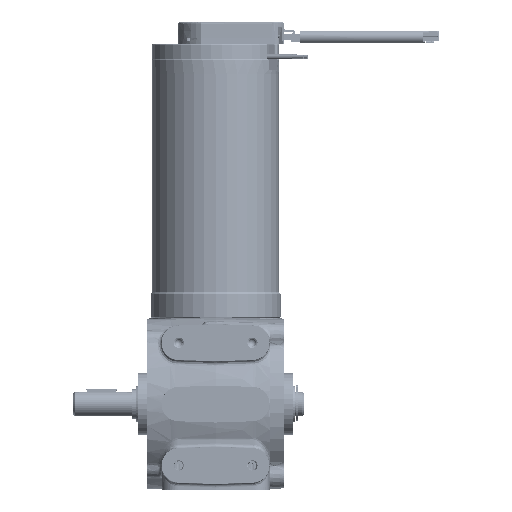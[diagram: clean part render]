
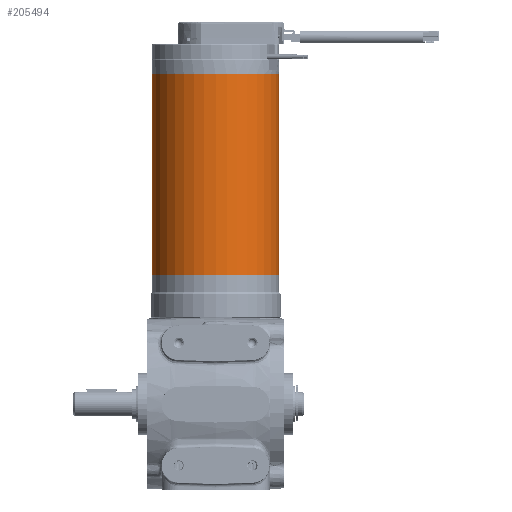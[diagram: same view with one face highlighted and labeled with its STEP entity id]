
A CAD part, front view. The second image highlights one B-rep face of the part: STEP entity #205494.
In plain terms, the highlighted cylindrical face has radius 26 mm (diameter 52 mm), a partial arc.
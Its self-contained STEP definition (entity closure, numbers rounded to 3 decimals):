
#3631 = ORIENTED_EDGE ( 'NONE', *, *, #151661, .T. ) ;
#13545 = LINE ( 'NONE', #148701, #166307 ) ;
#19255 = ORIENTED_EDGE ( 'NONE', *, *, #232965, .F. ) ;
#24252 = CARTESIAN_POINT ( 'NONE',  ( 85.757, 20.848, 189.564 ) ) ;
#29586 = CARTESIAN_POINT ( 'NONE',  ( 33.757, 20.848, 107.564 ) ) ;
#34040 = CIRCLE ( 'NONE', #160050, 26. ) ;
#39036 = CIRCLE ( 'NONE', #208794, 26. ) ;
#39431 = DIRECTION ( 'NONE',  ( 1., 0., 0. ) ) ;
#46275 = DIRECTION ( 'NONE',  ( 1., 0., 0. ) ) ;
#63581 = EDGE_CURVE ( 'NONE', #286070, #189823, #217346, .T. ) ;
#94854 = DIRECTION ( 'NONE',  ( 0., 0., -1. ) ) ;
#102230 = VECTOR ( 'NONE', #190110, 1000. ) ;
#122043 = FACE_OUTER_BOUND ( 'NONE', #232312, .T. ) ;
#125897 = DIRECTION ( 'NONE',  ( 0., 0., -1. ) ) ;
#130430 = EDGE_CURVE ( 'NONE', #153878, #224317, #13545, .T. ) ;
#147655 = CARTESIAN_POINT ( 'NONE',  ( 33.757, 20.848, 189.564 ) ) ;
#148701 = CARTESIAN_POINT ( 'NONE',  ( 85.757, 20.848, 189.564 ) ) ;
#151661 = EDGE_CURVE ( 'NONE', #153878, #286070, #39036, .T. ) ;
#153878 = VERTEX_POINT ( 'NONE', #24252 ) ;
#155450 = DIRECTION ( 'NONE',  ( 0., 0., -1. ) ) ;
#160050 = AXIS2_PLACEMENT_3D ( 'NONE', #281032, #155450, #278068 ) ;
#166307 = VECTOR ( 'NONE', #125897, 1000. ) ;
#174271 = CARTESIAN_POINT ( 'NONE',  ( 33.757, 20.848, 189.564 ) ) ;
#178104 = CARTESIAN_POINT ( 'NONE',  ( 85.757, 20.848, 107.564 ) ) ;
#182022 = DIRECTION ( 'NONE',  ( 0., 0., -1. ) ) ;
#188835 = CYLINDRICAL_SURFACE ( 'NONE', #207047, 26. ) ;
#189823 = VERTEX_POINT ( 'NONE', #29586 ) ;
#190110 = DIRECTION ( 'NONE',  ( 0., 0., -1. ) ) ;
#195329 = ORIENTED_EDGE ( 'NONE', *, *, #63581, .T. ) ;
#205494 = ADVANCED_FACE ( 'NONE', ( #122043 ), #188835, .T. ) ;
#207047 = AXIS2_PLACEMENT_3D ( 'NONE', #281601, #94854, #46275 ) ;
#208794 = AXIS2_PLACEMENT_3D ( 'NONE', #270281, #182022, #39431 ) ;
#217346 = LINE ( 'NONE', #147655, #102230 ) ;
#224317 = VERTEX_POINT ( 'NONE', #178104 ) ;
#232312 = EDGE_LOOP ( 'NONE', ( #3631, #195329, #19255, #287970 ) ) ;
#232965 = EDGE_CURVE ( 'NONE', #224317, #189823, #34040, .T. ) ;
#270281 = CARTESIAN_POINT ( 'NONE',  ( 59.757, 20.848, 189.564 ) ) ;
#278068 = DIRECTION ( 'NONE',  ( 1., 0., 0. ) ) ;
#281032 = CARTESIAN_POINT ( 'NONE',  ( 59.757, 20.848, 107.564 ) ) ;
#281601 = CARTESIAN_POINT ( 'NONE',  ( 59.757, 20.848, 189.564 ) ) ;
#286070 = VERTEX_POINT ( 'NONE', #174271 ) ;
#287970 = ORIENTED_EDGE ( 'NONE', *, *, #130430, .F. ) ;
